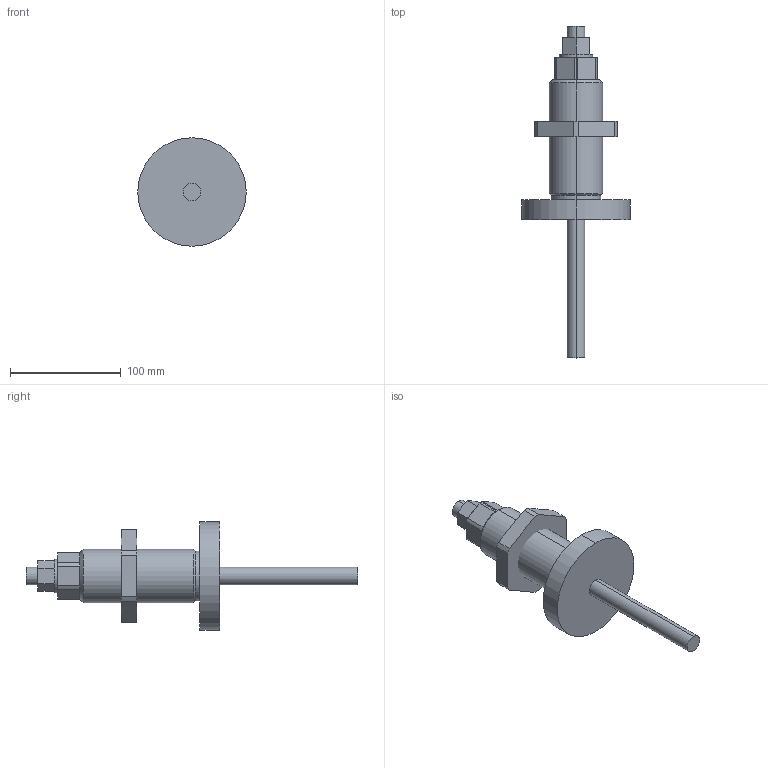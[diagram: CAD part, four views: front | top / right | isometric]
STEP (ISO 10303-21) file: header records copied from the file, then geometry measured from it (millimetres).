
FILE_DESCRIPTION (( 'STEP AP203' ), '1' );
FILE_NAME ('SFA-48x2-16-0_Stellfuss.STEP', '2024-08-15T17:19:34', ( '' ), ( '' ), 'SwSTEP 2.0', 'SolidWorks 2014', '' );
FILE_SCHEMA (( 'CONFIG_CONTROL_DESIGN' ));
Length unit declared in the file: millimetre
Products named in the file (3): SFA-48x2-16-0_Stellfuss; SFA-48x2-16-3_Mutter_St50-2 br］iert; SFA-48x2-16-0_Stellfuss zu STEP+DWG
Assembly tree (2 placements, depth 2):
  SFA-48x2-16-0_Stellfuss
    SFA-48x2-16-0_Stellfuss zu STEP+DWG
    SFA-48x2-16-3_Mutter_St50-2 br］iert
Bounding box: 98 x 300 x 98 mm (x, y, z)
Volume: 436867.9 mm3; surface area: 59878.1 mm2
Topology: 2 solids, 2 shells, 65 faces, 149 edges, 93 vertices
Faces by surface type: plane 33, cylinder 28, cone 4
Entity records: 2143 total; most frequent: DIRECTION 352, CARTESIAN_POINT 312, ORIENTED_EDGE 298, EDGE_CURVE 149, AXIS2_PLACEMENT_3D 133, VERTEX_POINT 93, VECTOR 86, LINE 86
